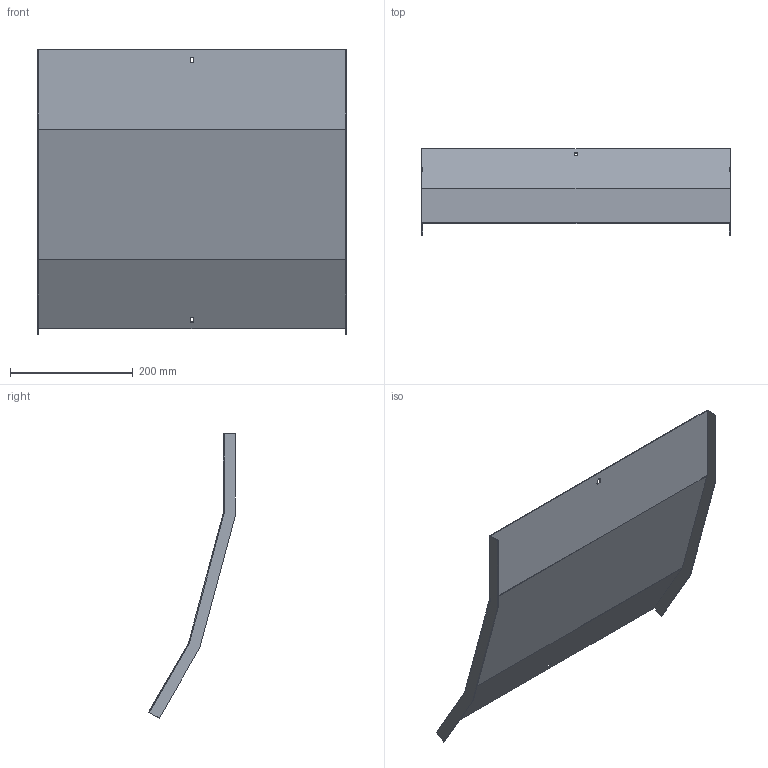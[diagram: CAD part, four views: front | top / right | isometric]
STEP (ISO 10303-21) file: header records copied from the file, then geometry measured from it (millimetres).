
FILE_DESCRIPTION (( 'STEP AP214' ), '1' );
FILE_NAME ('32N5R500_H150.step', '2025-02-21T14:28:13', ( '' ), ( '' ), 'SwSTEP 2.0', 'SolidWorks 2023', '' );
FILE_SCHEMA (( 'AUTOMOTIVE_DESIGN' ));
Length unit declared in the file: millimetre
Products named in the file (1): 32N5R500_H150
Bounding box: 503 x 141.68 x 464.12 mm (x, y, z)
Volume: 388426.7 mm3; surface area: 521082.7 mm2
Topology: 1 solids, 1 shells, 26 faces, 72 edges, 48 vertices
Faces by surface type: plane 26
Entity records: 847 total; most frequent: CARTESIAN_POINT 147, ORIENTED_EDGE 144, DIRECTION 126, LINE 72, EDGE_CURVE 72, VECTOR 72, VERTEX_POINT 48, EDGE_LOOP 30
